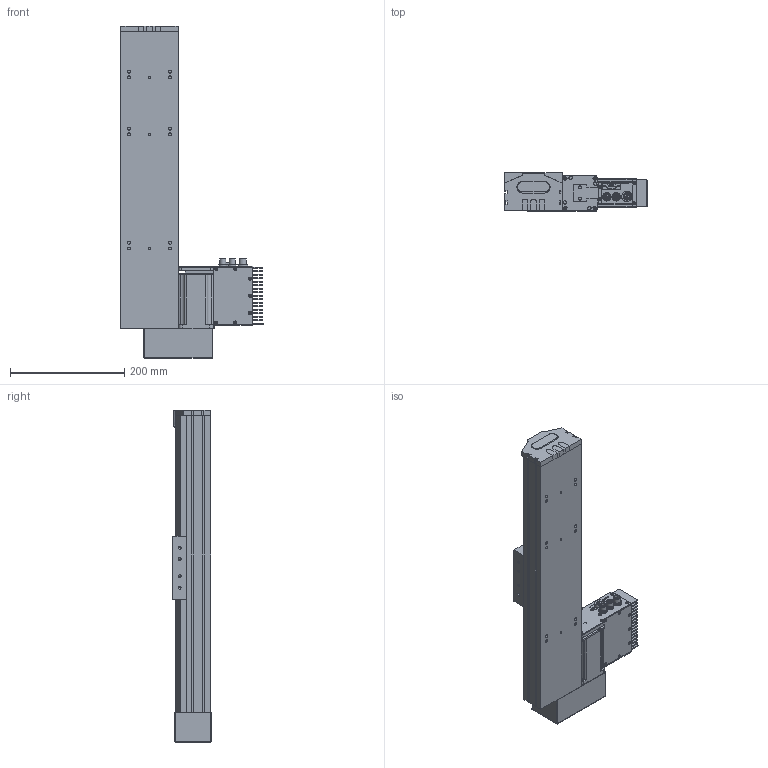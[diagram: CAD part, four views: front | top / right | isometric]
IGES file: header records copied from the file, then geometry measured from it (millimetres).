
Start section: SolidWorks IGES file using analytic representation for surfaces
Global section: file name: C:\Documents and Settings\1EDPI\Mes documents\yanize\S 10 TSH BR\S 10 TSH BR S300.IGS; native system: SolidWorks 2010; preprocessor: SolidWorks 2010; author: 1EDPI; date: 120904.142014; units: millimetre
Bounding box: 249.04 x 67.45 x 582 mm (x, y, z)
Surface area: 568613.8 mm2 (no closed solid volume)
Topology: 0 solids, 0 shells, 1961 faces, 26116 edges, 26084 vertices
Faces by surface type: revolution 1037, bspline 924
